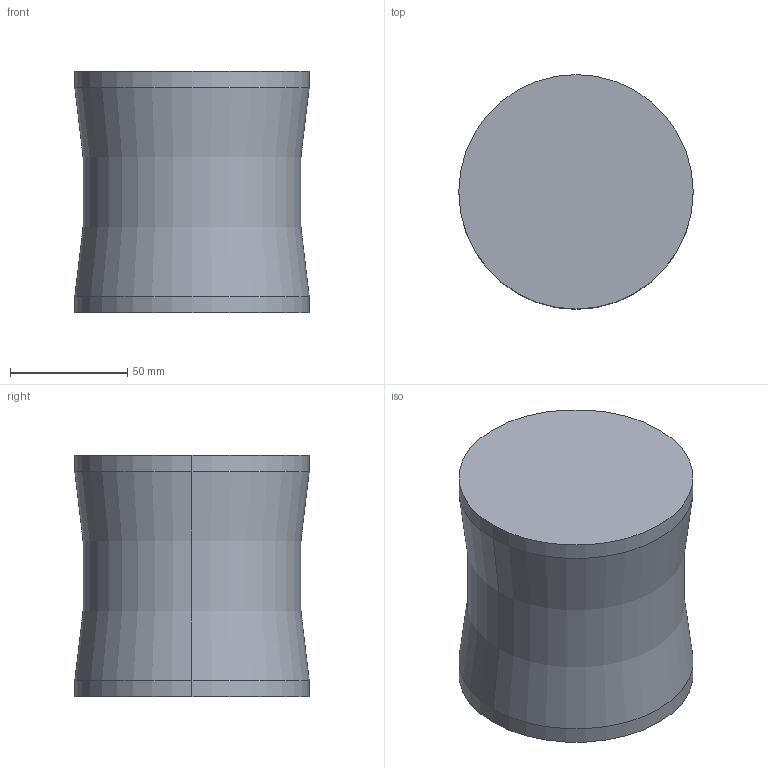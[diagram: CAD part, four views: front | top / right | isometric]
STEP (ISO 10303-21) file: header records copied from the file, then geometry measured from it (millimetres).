
FILE_DESCRIPTION(/* description */ (''),/* implementation_level */ '2;1');
FILE_NAME(/* name */ '3d_ex100100_06515_r00.stp',/* time_stamp */ '2011-01-10T14:15:38+09:00',/* author */ ('MISUMI'),/* organization */ (''),/* preprocessor_version */ 'ST-DEVELOPER v11',/* originating_system */ 'UGS - NX 5.0',/* authorisation */ '');
FILE_SCHEMA (('CONFIG_CONTROL_DESIGN'));
Length unit declared in the file: millimetre
Products named in the file (1): 3d_ex100100_06515_r00
Bounding box: 100 x 100 x 103 mm (x, y, z)
Volume: 736804.4 mm3; surface area: 46720.6 mm2
Topology: 1 solids, 1 shells, 8 faces, 14 edges, 8 vertices
Faces by surface type: cylinder 4, plane 2, torus 2
Entity records: 282 total; most frequent: DIRECTION 42, CARTESIAN_POINT 31, ORIENTED_EDGE 28, AXIS2_PLACEMENT_3D 19, EDGE_CURVE 14, CIRCLE 10, ADVANCED_FACE 8, FACE_OUTER_BOUND 8
